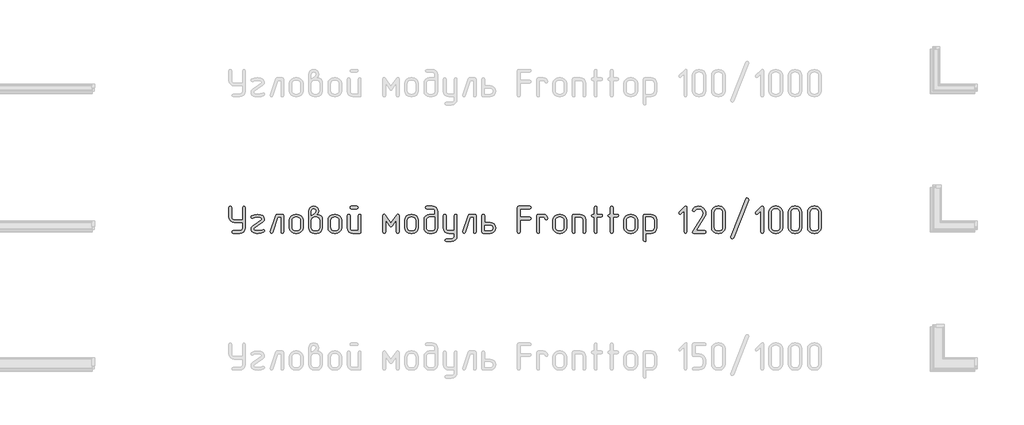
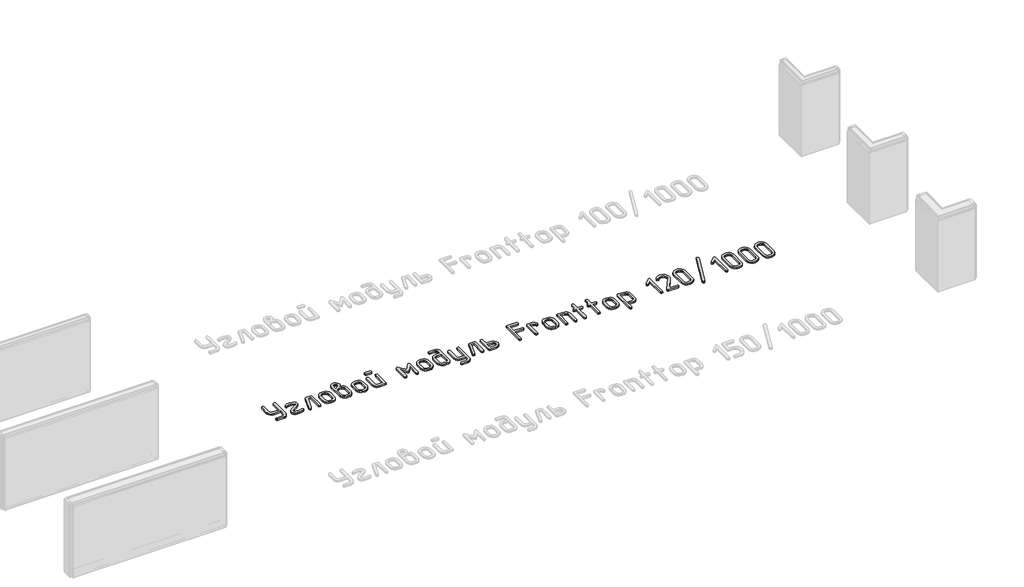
# One storey, part 33 of 37: 1 proxy.
"""IFC4 building model written with IfcOpenShell, lengths in millimetres."""

from ifc_helpers import new_model, si_unit, origin, origin_with_axes, place, context, project, spatial, polyline, outline, extrude, element, save

model = new_model("IFC4")

# Units and contexts
model_context = context("Model", 3, world=origin())
ifc_project = project(units=[si_unit("LENGTHUNIT", "METRE", prefix="MILLI")], contexts=[model_context])

# Site, building, storey
site = spatial("IfcSite", under=ifc_project)
building = spatial("IfcBuilding", under=site)
storey = spatial("IfcBuildingStorey", under=building, Name="Этаж 01", Elevation=0.0)

# Proxy
placement = place(None, origin())
element("IfcBuildingElementProxy", 1, Name="300 мм ГОСТ 2.304", ObjectType="300 мм ГОСТ 2.304", at=placement, inside=storey, context=model_context, shape_type="SweptSolid", body=[
    extrude(outline(polyline([(64282.5947081, -20608.7261154), (64192.9398643, -20608.7261154), (64169.869135, -20604.3522505), (64150.5152523, -20591.2306559), (64137.3936577, -20571.8767732), (64133.0197928, -20548.8060439), (64133.0197928, -20444.2838139), (64137.4124296, -20433.1332743), (64148.3377058, -20428.9659009), (64158.6247356, -20432.9080109), (64163.205092, -20444.2838139), (64163.205092, -20548.8060439), (64165.3357086, -20560.4540402), (64171.7275583, -20570.0183499), (64181.2918679, -20576.4101996), (64192.9398643, -20578.5408162), (64282.5947081, -20578.5408162), (64282.5947081, -20444.2838139), (64286.949801, -20433.1332743), (64297.4620942, -20428.9659009), (64307.9368436, -20432.9080109), (64312.3294804, -20444.2838139), (64312.3294804, -20668.19566), (64307.9556155, -20691.6042844), (64294.8340209, -20711.0707988), (64275.8180333, -20723.8544983), (64252.8599358, -20728.1157314), (64178.0724781, -20728.1157314), (64167.147202, -20723.7606385), (64163.205092, -20713.2483453), (64166.9219385, -20702.736052), (64178.0724781, -20698.3809591), (64252.8599358, -20698.3809591), (64264.2263528, -20696.1940267), (64273.8469783, -20689.6332294), (64280.4077756, -20679.8999722), (64282.5947081, -20668.19566), (64282.5947081, -20608.7261154)])), origin_with_axes(), (0.0, 0.0, 1.0), 20.0),
    extrude(outline(polyline([(64514.9914765, -20714.524838), (64485.4444237, -20725.0746752), (64451.6173658, -20728.5662583), (64430.8180428, -20727.4774851), (64413.0973199, -20724.5866044), (64396.8408093, -20719.4524755), (64384.8643037, -20709.3062353), (64377.4869265, -20695.6496401), (64375.0278008, -20679.984446), (64378.9699108, -20660.7619669), (64391.2467675, -20644.618088), (64486.5331969, -20578.991343), (64491.4139045, -20569.8306304), (64487.5844263, -20560.4071103), (64476.0959915, -20554.0621905), (64442.3815653, -20549.7070976), (64416.2510079, -20552.4290307), (64397.32888, -20560.5948299), (64388.1681673, -20564.1239569), (64377.693418, -20559.5436005), (64373.3007812, -20548.355517), (64379.4579815, -20537.0172579), (64408.0664367, -20524.777945), (64445.0096386, -20520.4228521), (64450.2657853, -20520.4228521), (64479.1370478, -20523.9144352), (64501.85111, -20533.7509382), (64516.7184961, -20549.0313073), (64521.9746427, -20568.9295767), (64517.7134096, -20586.6315276), (64504.9297101, -20602.193476), (64409.5681929, -20668.19566), (64404.3871341, -20679.6090069), (64408.1039806, -20689.8584928), (64417.9029396, -20695.7528858), (64434.3096259, -20697.5174493), (64451.9928049, -20698.3809591), (64478.4612575, -20696.2034127), (64501.0251441, -20687.8686659), (64508.4588371, -20686.1416463), (64519.1588499, -20690.7220026), (64523.3262233, -20701.9100861), (64521.2425366, -20709.1936036), (64514.9914765, -20714.524838)])), origin_with_axes(), (0.0, 0.0, 1.0), 20.0),
    extrude(outline(polyline([(64734.3229662, -20713.2483453), (64730.1555928, -20724.3988849), (64719.45558, -20728.1157314), (64708.9432868, -20724.1736215), (64704.5881939, -20713.2483453), (64704.5881939, -20548.8060439), (64670.0478018, -20548.8060439), (64614.0322964, -20718.0539651), (64608.5884303, -20725.4876581), (64600.5164908, -20728.1157314), (64589.7789341, -20724.1736215), (64585.1985778, -20713.6988721), (64586.0996315, -20708.4427255), (64645.1186493, -20529.133038), (64650.4498837, -20521.5867132), (64659.5355086, -20519.0712716), (64719.45558, -20519.0712716), (64730.6061197, -20522.7881181), (64734.3229662, -20533.9386577), (64734.3229662, -20713.2483453)])), origin_with_axes(), (0.0, 0.0, 1.0), 20.0),
    extrude(outline(polyline([(64945.7702359, -20662.4889865), (64940.9646162, -20687.9812976), (64926.5477569, -20709.3437792), (64905.5231704, -20723.4227434), (64880.143491, -20728.1157314), (64862.1975047, -20728.1157314), (64836.7615094, -20723.4227434), (64815.4177998, -20709.3437792), (64801.0009405, -20687.9812976), (64796.1953207, -20662.4889865), (64796.1953207, -20584.6980165), (64801.0009405, -20559.5436005), (64815.4177998, -20538.2937506), (64837.1744924, -20523.8768913), (64862.1975047, -20519.0712716), (64880.143491, -20519.0712716), (64905.288521, -20523.8862773), (64926.510213, -20538.3312945), (64940.9552302, -20559.5529865), (64945.7702359, -20584.6980165), (64945.7702359, -20662.4889865)]), holes=[polyline([(64916.0354636, -20662.4889865), (64916.0354636, -20584.6980165), (64913.4073903, -20570.9194036), (64905.5231704, -20559.3183371), (64893.9221039, -20551.4341172), (64880.143491, -20548.8060439), (64862.1975047, -20548.8060439), (64848.4282777, -20551.4341172), (64836.8553692, -20559.3183371), (64828.9993072, -20570.9194036), (64826.3806199, -20584.6980165), (64826.3806199, -20662.4889865), (64828.9993072, -20676.2675994), (64836.8553692, -20687.8686659), (64848.4282777, -20695.7528858), (64862.1975047, -20698.3809591), (64880.143491, -20698.3809591), (64893.9221039, -20695.7528858), (64905.5231704, -20687.8686659), (64913.4073903, -20676.2675994), (64916.0354636, -20662.4889865)])]), origin_with_axes(), (0.0, 0.0, 1.0), 20.0),
    extrude(outline(polyline([(65097.2974342, -20519.9723253), (65122.7897453, -20524.2335584), (65142.3501195, -20537.0172579), (65153.5006592, -20555.057104), (65157.2175057, -20578.5408162), (65157.2175057, -20668.19566), (65152.8436408, -20691.6042844), (65139.7220462, -20711.0707988), (65120.5934269, -20723.8544983), (65097.2974342, -20728.1157314), (65067.5626619, -20728.1157314), (65044.4919326, -20723.8544983), (65025.1380499, -20711.0707988), (65012.0164553, -20691.6042844), (65007.6425905, -20668.19566), (65007.6425905, -20483.2543867), (65011.9038236, -20460.3901489), (65024.6875231, -20442.5567943), (65041.4133325, -20432.3636243), (65061.8559884, -20428.9659009), (65081.9607493, -20432.3636243), (65098.573927, -20442.5567943), (65111.0760472, -20460.2775172), (65115.2434206, -20482.8038599), (65111.0760472, -20504.8421318), (65097.2974342, -20519.9723253)]), holes=[polyline([(65127.4827334, -20668.19566), (65127.4827334, -20578.5408162), (65125.295801, -20567.1743991), (65118.7350037, -20557.5537736), (65109.0017464, -20550.9929763), (65097.2974342, -20548.8060439), (65067.5626619, -20548.8060439), (65055.9146656, -20550.9929763), (65046.3503559, -20557.5537736), (65039.9585062, -20567.1743991), (65037.8278896, -20578.5408162), (65037.8278896, -20668.19566), (65039.9585062, -20679.8999722), (65046.3503559, -20689.6332294), (65055.9146656, -20696.1940267), (65067.5626619, -20698.3809591), (65097.2974342, -20698.3809591), (65109.0017464, -20696.1940267), (65118.7350037, -20689.6332294), (65125.295801, -20679.8999722), (65127.4827334, -20668.19566)]), polyline([(65037.8278896, -20529.133038), (65044.8110558, -20525.0032085), (65050.0672025, -20521.248818), (65060.1289688, -20514.0403884), (65067.5626619, -20508.5589783), (65079.8019748, -20497.671246), (65085.5086482, -20483.2543867), (65083.7065408, -20473.1644624), (65078.3002186, -20465.7213834), (65070.4723145, -20461.1316411), (65061.4054616, -20459.601727), (65052.4512404, -20461.1316411), (65044.8110558, -20465.7213834), (65039.5736812, -20473.1644624), (65037.8278896, -20483.2543867), (65037.8278896, -20529.133038)])]), origin_with_axes(), (0.0, 0.0, 1.0), 20.0),
    extrude(outline(polyline([(65368.6647755, -20662.4889865), (65363.8591557, -20687.9812976), (65349.4422964, -20709.3437792), (65328.4177099, -20723.4227434), (65303.0380305, -20728.1157314), (65285.0920442, -20728.1157314), (65259.6560489, -20723.4227434), (65238.3123393, -20709.3437792), (65223.89548, -20687.9812976), (65219.0898602, -20662.4889865), (65219.0898602, -20584.6980165), (65223.89548, -20559.5436005), (65238.3123393, -20538.2937506), (65260.0690319, -20523.8768913), (65285.0920442, -20519.0712716), (65303.0380305, -20519.0712716), (65328.1830605, -20523.8862773), (65349.4047525, -20538.3312945), (65363.8497697, -20559.5529865), (65368.6647755, -20584.6980165), (65368.6647755, -20662.4889865)]), holes=[polyline([(65338.9300032, -20662.4889865), (65338.9300032, -20584.6980165), (65336.3019298, -20570.9194036), (65328.4177099, -20559.3183371), (65316.8166434, -20551.4341172), (65303.0380305, -20548.8060439), (65285.0920442, -20548.8060439), (65271.3228172, -20551.4341172), (65259.7499087, -20559.3183371), (65251.8938467, -20570.9194036), (65249.2751594, -20584.6980165), (65249.2751594, -20662.4889865), (65251.8938467, -20676.2675994), (65259.7499087, -20687.8686659), (65271.3228172, -20695.7528858), (65285.0920442, -20698.3809591), (65303.0380305, -20698.3809591), (65316.8166434, -20695.7528858), (65328.4177099, -20687.8686659), (65336.3019298, -20676.2675994), (65338.9300032, -20662.4889865)])]), origin_with_axes(), (0.0, 0.0, 1.0), 20.0),
    extrude(outline(polyline([(65535.5098868, -20459.1512001), (65475.5898153, -20459.1512001), (65464.6645391, -20454.7961072), (65460.7224291, -20444.2838139), (65464.4392757, -20433.5838012), (65475.5898153, -20428.9659009), (65535.5098868, -20428.9659009), (65546.6604264, -20433.3585378), (65550.3772729, -20444.2838139), (65546.4351629, -20454.5708438), (65535.5098868, -20459.1512001)])), origin_with_axes(), (0.0, 0.0, 1.0), 20.0),
    extrude(outline(polyline([(65580.1120452, -20713.2483453), (65576.3951987, -20724.3988849), (65565.2446591, -20728.1157314), (65490.4572014, -20728.1157314), (65467.3864722, -20723.8544983), (65448.0325894, -20711.0707988), (65434.9109948, -20691.6042844), (65430.53713, -20668.19566), (65430.53713, -20533.9386577), (65434.9297668, -20523.0133815), (65445.855043, -20519.0712716), (65456.1420728, -20522.7881181), (65460.7224291, -20533.9386577), (65460.7224291, -20668.19566), (65462.8530457, -20679.8999722), (65469.2448954, -20689.6332294), (65478.8092051, -20696.1940267), (65490.4572014, -20698.3809591), (65550.3772729, -20698.3809591), (65550.3772729, -20533.9386577), (65554.7323658, -20523.0133815), (65565.2446591, -20519.0712716), (65575.7194084, -20522.7881181), (65580.1120452, -20533.9386577), (65580.1120452, -20713.2483453)])), origin_with_axes(), (0.0, 0.0, 1.0), 20.0),
    extrude(outline(polyline([(65999.1020187, -20713.2483453), (65994.7093818, -20724.1736215), (65984.2346325, -20728.1157314), (65973.4970758, -20724.3988849), (65969.3672464, -20713.2483453), (65969.3672464, -20580.2678358), (65921.6864877, -20647.2461613), (65915.5480594, -20653.1030104), (65909.4471749, -20655.0552934), (65903.121027, -20653.1030104), (65897.207862, -20647.2461613), (65849.9776303, -20580.2678358), (65849.9776303, -20713.2483453), (65845.3972739, -20724.1736215), (65835.1102441, -20728.1157314), (65823.9597045, -20724.3988849), (65819.7923311, -20713.2483453), (65819.7923311, -20533.9386577), (65823.5091776, -20521.0235546), (65832.9326977, -20516.4431983), (65840.666742, -20518.6395167), (65847.349557, -20525.2284719), (65909.4471749, -20612.6306814), (65971.9953197, -20525.2284719), (65978.7532225, -20518.6395167), (65985.9616521, -20516.4431983), (65995.3851721, -20521.0235546), (65999.1020187, -20533.9386577), (65999.1020187, -20713.2483453)])), origin_with_axes(), (0.0, 0.0, 1.0), 20.0),
    extrude(outline(polyline([(66209.6482347, -20662.4889865), (66204.8426149, -20687.9812976), (66190.4257556, -20709.3437792), (66169.4011692, -20723.4227434), (66144.0214898, -20728.1157314), (66126.0755035, -20728.1157314), (66100.6395082, -20723.4227434), (66079.2957985, -20709.3437792), (66064.8789392, -20687.9812976), (66060.0733195, -20662.4889865), (66060.0733195, -20584.6980165), (66064.8789392, -20559.5436005), (66079.2957985, -20538.2937506), (66101.0524911, -20523.8768913), (66126.0755035, -20519.0712716), (66144.0214898, -20519.0712716), (66169.1665198, -20523.8862773), (66190.3882117, -20538.3312945), (66204.833229, -20559.5529865), (66209.6482347, -20584.6980165), (66209.6482347, -20662.4889865)]), holes=[polyline([(66179.9134624, -20662.4889865), (66179.9134624, -20584.6980165), (66177.2853891, -20570.9194036), (66169.4011692, -20559.3183371), (66157.8001027, -20551.4341172), (66144.0214898, -20548.8060439), (66126.0755035, -20548.8060439), (66112.3062765, -20551.4341172), (66100.733368, -20559.3183371), (66092.877306, -20570.9194036), (66090.2586186, -20584.6980165), (66090.2586186, -20662.4889865), (66092.877306, -20676.2675994), (66100.733368, -20687.8686659), (66112.3062765, -20695.7528858), (66126.0755035, -20698.3809591), (66144.0214898, -20698.3809591), (66157.8001027, -20695.7528858), (66169.4011692, -20687.8686659), (66177.2853891, -20676.2675994), (66179.9134624, -20662.4889865)])]), origin_with_axes(), (0.0, 0.0, 1.0), 20.0),
    extrude(outline(polyline([(66391.3607322, -20519.0712716), (66391.3607322, -20488.8859724), (66389.1737997, -20477.2379761), (66382.6130024, -20467.6736664), (66372.8797452, -20461.2818167), (66361.175433, -20459.1512001), (66301.7058884, -20459.1512001), (66290.7806122, -20454.7961072), (66286.8385022, -20444.2838139), (66290.5553488, -20433.5838012), (66301.7058884, -20428.9659009), (66361.175433, -20428.9659009), (66384.4714257, -20433.3397658), (66403.600045, -20446.4613604), (66416.7216396, -20465.8152431), (66421.0955045, -20488.8859724), (66421.0955045, -20668.19566), (66416.7216396, -20691.6042844), (66403.600045, -20711.0707988), (66384.4714257, -20723.8544983), (66361.175433, -20728.1157314), (66331.4406607, -20728.1157314), (66308.3699314, -20723.8544983), (66289.0160487, -20711.0707988), (66275.8944541, -20691.6042844), (66271.5205892, -20668.19566), (66271.5205892, -20578.5408162), (66275.8944541, -20555.8079821), (66289.0160487, -20536.566731), (66308.3699314, -20523.4451364), (66331.4406607, -20519.0712716), (66391.3607322, -20519.0712716)]), holes=[polyline([(66391.3607322, -20548.8060439), (66331.4406607, -20548.8060439), (66319.7926643, -20550.9929763), (66310.2283547, -20557.5537736), (66303.836505, -20567.1743991), (66301.7058884, -20578.5408162), (66301.7058884, -20668.19566), (66303.836505, -20679.8999722), (66310.2283547, -20689.6332294), (66319.7926643, -20696.1940267), (66331.4406607, -20698.3809591), (66361.175433, -20698.3809591), (66372.8797452, -20696.1940267), (66382.6130024, -20689.6332294), (66389.1737997, -20679.8999722), (66391.3607322, -20668.19566), (66391.3607322, -20548.8060439)])]), origin_with_axes(), (0.0, 0.0, 1.0), 20.0),
    extrude(outline(polyline([(66602.8080019, -20728.1157314), (66542.8879304, -20728.1157314), (66519.8172012, -20723.8544983), (66500.4633184, -20711.0707988), (66487.3417238, -20691.6042844), (66482.967859, -20668.19566), (66482.967859, -20533.9386577), (66487.3604958, -20523.0133815), (66498.285772, -20519.0712716), (66508.5728018, -20522.7881181), (66513.1531581, -20533.9386577), (66513.1531581, -20668.19566), (66515.2837747, -20679.8999722), (66521.6756244, -20689.6332294), (66531.2399341, -20696.1940267), (66542.8879304, -20698.3809591), (66602.8080019, -20698.3809591), (66602.8080019, -20533.9386577), (66607.1630948, -20523.0133815), (66617.6753881, -20519.0712716), (66628.1501374, -20522.7881181), (66632.5427742, -20533.9386577), (66632.5427742, -20757.8505038), (66628.2815411, -20781.1464965), (66615.4978416, -20800.2751158), (66596.0313272, -20813.3967104), (66572.6227028, -20817.7705752), (66513.1531581, -20817.7705752), (66502.2278819, -20813.3779384), (66498.285772, -20802.9031891), (66502.0026185, -20792.3908958), (66513.1531581, -20788.0358029), (66572.6227028, -20788.0358029), (66584.327015, -20785.8488705), (66594.0602722, -20779.2880732), (66600.6210695, -20769.554816), (66602.8080019, -20757.8505038), (66602.8080019, -20728.1157314)])), origin_with_axes(), (0.0, 0.0, 1.0), 20.0),
    extrude(outline(polyline([(66843.990044, -20713.2483453), (66839.8226706, -20724.3988849), (66829.1226578, -20728.1157314), (66818.6103646, -20724.1736215), (66814.2552717, -20713.2483453), (66814.2552717, -20548.8060439), (66779.7148796, -20548.8060439), (66723.6993742, -20718.0539651), (66718.255508, -20725.4876581), (66710.1835686, -20728.1157314), (66699.4460119, -20724.1736215), (66694.8656556, -20713.6988721), (66695.7667093, -20708.4427255), (66754.7857271, -20529.133038), (66760.1169615, -20521.5867132), (66769.2025864, -20519.0712716), (66829.1226578, -20519.0712716), (66840.2731974, -20522.7881181), (66843.990044, -20533.9386577), (66843.990044, -20713.2483453)])), origin_with_axes(), (0.0, 0.0, 1.0), 20.0),
    extrude(outline(polyline([(66936.0476976, -20608.7261154), (66995.5172423, -20608.7261154), (67021.0095534, -20613.3252436), (67040.5699276, -20627.1226285), (67051.7204672, -20645.4628258), (67055.4373137, -20668.19566), (67051.8330989, -20690.9472661), (67041.0204544, -20709.3437792), (67021.1221851, -20723.4227434), (66995.5172423, -20728.1157314), (66921.1803115, -20728.1157314), (66909.6918767, -20724.3988849), (66905.8623985, -20713.2483453), (66905.8623985, -20533.9386577), (66910.2550353, -20523.0133815), (66921.1803115, -20519.0712716), (66931.4673413, -20522.7881181), (66936.0476976, -20533.9386577), (66936.0476976, -20608.7261154)]), holes=[polyline([(66936.0476976, -20638.4608877), (66936.0476976, -20698.3809591), (66995.5172423, -20698.3809591), (67008.3009417, -20696.1377108), (67017.8183215, -20689.407966), (67023.7314864, -20679.6183929), (67025.7025414, -20668.19566), (67023.8441182, -20657.1577521), (67018.2688483, -20647.6216003), (67008.6388369, -20640.7510658), (66995.5172423, -20638.4608877), (66936.0476976, -20638.4608877)])]), origin_with_axes(), (0.0, 0.0, 1.0), 20.0),
    extrude(outline(polyline([(67325.3028988, -20548.355517), (67429.8251287, -20548.355517), (67440.9756683, -20552.5228904), (67444.6925149, -20563.2229032), (67440.7504049, -20573.9604598), (67429.8251287, -20578.5408162), (67325.3028988, -20578.5408162), (67325.3028988, -20713.2483453), (67321.1355254, -20724.3988849), (67310.4355126, -20728.1157314), (67299.697956, -20724.1736215), (67295.1175996, -20713.2483453), (67295.1175996, -20444.2838139), (67298.9470779, -20432.7953792), (67310.4355126, -20428.9659009), (67429.8251287, -20428.9659009), (67440.9756683, -20433.3585378), (67444.6925149, -20444.2838139), (67440.7504049, -20454.5708438), (67429.8251287, -20459.1512001), (67325.3028988, -20459.1512001), (67325.3028988, -20548.355517)])), origin_with_axes(), (0.0, 0.0, 1.0), 20.0),
    extrude(outline(polyline([(67626.4050123, -20563.67343), (67622.2376389, -20574.8239697), (67611.5376262, -20578.5408162), (67600.8000695, -20574.5987062), (67596.2197132, -20563.67343), (67592.0523398, -20553.1986807), (67581.352327, -20548.8060439), (67536.7501685, -20548.8060439), (67536.7501685, -20713.2483453), (67532.5827951, -20724.3988849), (67521.8827824, -20728.1157314), (67511.1452257, -20724.1736215), (67506.5648694, -20713.2483453), (67506.5648694, -20533.9386577), (67510.3943476, -20522.7881181), (67521.8827824, -20519.0712716), (67581.352327, -20519.0712716), (67598.8477865, -20522.5628547), (67613.3021897, -20532.1740942), (67622.9134292, -20546.403234), (67626.4050123, -20563.67343)])), origin_with_axes(), (0.0, 0.0, 1.0), 20.0),
    extrude(outline(polyline([(67833.947716, -20662.4889865), (67829.1420963, -20687.9812976), (67814.7252369, -20709.3437792), (67793.7006505, -20723.4227434), (67768.3209711, -20728.1157314), (67750.3749848, -20728.1157314), (67724.9389895, -20723.4227434), (67703.5952798, -20709.3437792), (67689.1784205, -20687.9812976), (67684.3728008, -20662.4889865), (67684.3728008, -20584.6980165), (67689.1784205, -20559.5436005), (67703.5952798, -20538.2937506), (67725.3519725, -20523.8768913), (67750.3749848, -20519.0712716), (67768.3209711, -20519.0712716), (67793.4660011, -20523.8862773), (67814.687693, -20538.3312945), (67829.1327103, -20559.5529865), (67833.947716, -20584.6980165), (67833.947716, -20662.4889865)]), holes=[polyline([(67804.2129437, -20662.4889865), (67804.2129437, -20584.6980165), (67801.5848704, -20570.9194036), (67793.7006505, -20559.3183371), (67782.099584, -20551.4341172), (67768.3209711, -20548.8060439), (67750.3749848, -20548.8060439), (67736.6057578, -20551.4341172), (67725.0328493, -20559.3183371), (67717.1767873, -20570.9194036), (67714.5580999, -20584.6980165), (67714.5580999, -20662.4889865), (67717.1767873, -20676.2675994), (67725.0328493, -20687.8686659), (67736.6057578, -20695.7528858), (67750.3749848, -20698.3809591), (67768.3209711, -20698.3809591), (67782.099584, -20695.7528858), (67793.7006505, -20687.8686659), (67801.5848704, -20676.2675994), (67804.2129437, -20662.4889865)])]), origin_with_axes(), (0.0, 0.0, 1.0), 20.0),
    extrude(outline(polyline([(68045.3949858, -20713.2483453), (68041.2276124, -20724.3988849), (68030.5275996, -20728.1157314), (68020.0153064, -20724.1736215), (68015.6602135, -20713.2483453), (68015.6602135, -20578.5408162), (68013.473281, -20567.1743991), (68006.9124837, -20557.5537736), (67997.1792265, -20550.9929763), (67985.4749143, -20548.8060439), (67926.0053697, -20548.8060439), (67926.0053697, -20713.2483453), (67921.8379963, -20724.3988849), (67911.1379835, -20728.1157314), (67900.4004269, -20724.1736215), (67895.8200705, -20713.2483453), (67895.8200705, -20533.9386577), (67899.6495488, -20522.7881181), (67911.1379835, -20519.0712716), (67985.4749143, -20519.0712716), (68008.770907, -20523.3325047), (68027.8995263, -20536.1162042), (68041.0211209, -20555.4700869), (68045.3949858, -20578.5408162), (68045.3949858, -20713.2483453)])), origin_with_axes(), (0.0, 0.0, 1.0), 20.0),
    extrude(outline(polyline([(68167.1874117, -20519.0712716), (68212.2400971, -20519.0712716), (68223.3906367, -20523.238645), (68227.1074832, -20533.9386577), (68223.1653733, -20544.2256875), (68212.2400971, -20548.8060439), (68167.1874117, -20548.8060439), (68167.1874117, -20713.2483453), (68163.0200384, -20724.3988849), (68152.3200256, -20728.1157314), (68141.8077324, -20724.1736215), (68137.4526394, -20713.2483453), (68137.4526394, -20548.8060439), (68122.5852533, -20548.8060439), (68111.4347137, -20544.450951), (68107.2673403, -20533.9386577), (68111.2094502, -20523.4639084), (68122.5852533, -20519.0712716), (68137.4526394, -20519.0712716), (68137.4526394, -20444.2838139), (68141.8077324, -20433.1332743), (68152.3200256, -20428.9659009), (68162.7947749, -20432.9080109), (68167.1874117, -20444.2838139), (68167.1874117, -20519.0712716)])), origin_with_axes(), (0.0, 0.0, 1.0), 20.0),
    extrude(outline(polyline([(68344.9953431, -20519.0712716), (68390.0480284, -20519.0712716), (68401.1985681, -20523.238645), (68404.9154146, -20533.9386577), (68400.9733046, -20544.2256875), (68390.0480284, -20548.8060439), (68344.9953431, -20548.8060439), (68344.9953431, -20713.2483453), (68340.8279697, -20724.3988849), (68330.127957, -20728.1157314), (68319.6156637, -20724.1736215), (68315.2605708, -20713.2483453), (68315.2605708, -20548.8060439), (68300.3931847, -20548.8060439), (68289.2426451, -20544.450951), (68285.0752717, -20533.9386577), (68289.0173816, -20523.4639084), (68300.3931847, -20519.0712716), (68315.2605708, -20519.0712716), (68315.2605708, -20444.2838139), (68319.6156637, -20433.1332743), (68330.127957, -20428.9659009), (68340.6027063, -20432.9080109), (68344.9953431, -20444.2838139), (68344.9953431, -20519.0712716)])), origin_with_axes(), (0.0, 0.0, 1.0), 20.0),
    extrude(outline(polyline([(68612.4581183, -20662.4889865), (68607.6524985, -20687.9812976), (68593.2356392, -20709.3437792), (68572.2110527, -20723.4227434), (68546.8313734, -20728.1157314), (68528.885387, -20728.1157314), (68503.4493918, -20723.4227434), (68482.1056821, -20709.3437792), (68467.6888228, -20687.9812976), (68462.883203, -20662.4889865), (68462.883203, -20584.6980165), (68467.6888228, -20559.5436005), (68482.1056821, -20538.2937506), (68503.8623747, -20523.8768913), (68528.885387, -20519.0712716), (68546.8313734, -20519.0712716), (68571.9764033, -20523.8862773), (68593.1980953, -20538.3312945), (68607.6431126, -20559.5529865), (68612.4581183, -20584.6980165), (68612.4581183, -20662.4889865)]), holes=[polyline([(68582.723346, -20662.4889865), (68582.723346, -20584.6980165), (68580.0952727, -20570.9194036), (68572.2110527, -20559.3183371), (68560.6099863, -20551.4341172), (68546.8313734, -20548.8060439), (68528.885387, -20548.8060439), (68515.1161601, -20551.4341172), (68503.5432515, -20559.3183371), (68495.6871895, -20570.9194036), (68493.0685022, -20584.6980165), (68493.0685022, -20662.4889865), (68495.6871895, -20676.2675994), (68503.5432515, -20687.8686659), (68515.1161601, -20695.7528858), (68528.885387, -20698.3809591), (68546.8313734, -20698.3809591), (68560.6099863, -20695.7528858), (68572.2110527, -20687.8686659), (68580.0952727, -20676.2675994), (68582.723346, -20662.4889865)])]), origin_with_axes(), (0.0, 0.0, 1.0), 20.0),
    extrude(outline(polyline([(68704.515772, -20728.1157314), (68704.515772, -20802.9031891), (68700.3483986, -20814.0537287), (68689.6483858, -20817.7705752), (68678.9108291, -20813.8284653), (68674.3304728, -20802.9031891), (68674.3304728, -20533.9386577), (68678.1599511, -20522.7881181), (68689.6483858, -20519.0712716), (68763.9853166, -20519.0712716), (68787.2813093, -20523.3325047), (68806.4099286, -20536.1162042), (68819.5315232, -20555.4700869), (68823.9053881, -20578.5408162), (68823.9053881, -20668.19566), (68819.5315232, -20691.6042844), (68806.4099286, -20711.0707988), (68787.2813093, -20723.8544983), (68763.9853166, -20728.1157314), (68704.515772, -20728.1157314)]), holes=[polyline([(68704.515772, -20698.3809591), (68763.9853166, -20698.3809591), (68775.6896288, -20696.1940267), (68785.422886, -20689.6332294), (68791.9836833, -20679.8999722), (68794.1706157, -20668.19566), (68794.1706157, -20578.5408162), (68791.9836833, -20567.1743991), (68785.422886, -20557.5537736), (68775.6896288, -20550.9929763), (68763.9853166, -20548.8060439), (68704.515772, -20548.8060439), (68704.515772, -20698.3809591)])]), origin_with_axes(), (0.0, 0.0, 1.0), 20.0),
    extrude(outline(polyline([(69153.2405177, -20713.2483453), (69149.0731443, -20724.3988849), (69138.3731316, -20728.1157314), (69128.0861018, -20724.1736215), (69123.5057454, -20713.2483453), (69123.5057454, -20480.1757866), (69088.9653533, -20514.2656518), (69078.9035869, -20519.0712716), (69068.1660303, -20514.4909152), (69063.5856739, -20503.7533586), (69068.3912937, -20493.3161531), (69127.8608383, -20433.7715207), (69141.0012049, -20427.2388813), (69149.7489346, -20431.6315182), (69153.2405177, -20444.2838139), (69153.2405177, -20713.2483453)])), origin_with_axes(), (0.0, 0.0, 1.0), 20.0),
    extrude(outline(polyline([(69351.1719819, -20544.450951), (69254.5339719, -20698.3809591), (69347.2674158, -20698.3809591), (69358.4179554, -20702.5483325), (69362.134802, -20713.2483453), (69358.192692, -20723.5353751), (69347.2674158, -20728.1157314), (69227.8777997, -20728.1157314), (69215.7135747, -20725.1685349), (69211.658833, -20716.3269455), (69215.18796, -20704.9135985), (69325.4168634, -20529.133038), (69331.0484491, -20506.8319587), (69327.3316026, -20488.3603577), (69316.181063, -20473.1926204), (69299.3426218, -20462.6615552), (69279.4631244, -20459.1512001), (69267.7681982, -20460.6811142), (69257.1620452, -20465.2708565), (69240.1171126, -20481.9028062), (69235.1050013, -20487.1401809), (69227.8777997, -20488.8859724), (69217.3655065, -20484.7561429), (69212.5598867, -20474.4691131), (69215.18796, -20466.1343663), (69227.2207814, -20451.1168046), (69242.294659, -20439.2529308), (69259.3395916, -20431.5376584), (69277.285578, -20428.9659009), (69309.3105284, -20434.8790659), (69336.3045957, -20452.6185607), (69354.663565, -20477.9982401), (69359.2533073, -20492.3212397), (69360.7832214, -20507.7330124), (69358.3804115, -20526.5237366), (69351.1719819, -20544.450951)])), origin_with_axes(), (0.0, 0.0, 1.0), 20.0),
    extrude(outline(polyline([(69573.5820717, -20662.4889865), (69568.776452, -20687.9812976), (69554.3595927, -20709.3437792), (69533.3350062, -20723.4227434), (69507.9553268, -20728.1157314), (69490.0093405, -20728.1157314), (69464.5733452, -20723.4227434), (69443.2296355, -20709.3437792), (69428.8127762, -20687.9812976), (69424.0071565, -20662.4889865), (69424.0071565, -20495.0431727), (69428.8127762, -20469.8887568), (69443.2296355, -20448.6389069), (69464.7610647, -20433.8841524), (69490.0093405, -20428.9659009), (69507.9553268, -20428.9659009), (69533.1003568, -20433.7809067), (69554.3220488, -20448.2259239), (69568.767066, -20469.5602476), (69573.5820717, -20495.0431727), (69573.5820717, -20662.4889865)]), holes=[polyline([(69543.8472994, -20662.4889865), (69543.8472994, -20495.0431727), (69541.2192261, -20481.2645598), (69533.3350062, -20469.6634933), (69521.7339397, -20461.7792734), (69507.9553268, -20459.1512001), (69490.0093405, -20459.1512001), (69476.2401135, -20461.7792734), (69464.667205, -20469.6634933), (69456.811143, -20481.2645598), (69454.1924556, -20495.0431727), (69454.1924556, -20662.4889865), (69456.811143, -20676.2675994), (69464.667205, -20687.8686659), (69476.2401135, -20695.7528858), (69490.0093405, -20698.3809591), (69507.9553268, -20698.3809591), (69521.7339397, -20695.7528858), (69533.3350062, -20687.8686659), (69541.2192261, -20676.2675994), (69543.8472994, -20662.4889865)])]), origin_with_axes(), (0.0, 0.0, 1.0), 20.0),
    extrude(outline(polyline([(69829.1809731, -20359.8851168), (69664.7386717, -20778.4245634), (69659.0695421, -20785.4077296), (69651.2228661, -20788.0358029), (69640.260046, -20783.8684295), (69635.4544262, -20773.1684168), (69636.3554799, -20767.4617433), (69800.7977813, -20348.9973845), (69806.4669109, -20341.9391305), (69814.3135869, -20339.3110572), (69825.276407, -20343.703694), (69830.0820268, -20354.1784433), (69829.1809731, -20359.8851168)])), origin_with_axes(), (0.0, 0.0, 1.0), 20.0),
    extrude(outline(polyline([(69994.223977, -20713.2483453), (69990.0566036, -20724.3988849), (69979.3565908, -20728.1157314), (69969.069561, -20724.1736215), (69964.4892047, -20713.2483453), (69964.4892047, -20480.1757866), (69929.9488126, -20514.2656518), (69919.8870462, -20519.0712716), (69909.1494895, -20514.4909152), (69904.5691332, -20503.7533586), (69909.374753, -20493.3161531), (69968.8442976, -20433.7715207), (69981.9846641, -20427.2388813), (69990.7323939, -20431.6315182), (69994.223977, -20444.2838139), (69994.223977, -20713.2483453)])), origin_with_axes(), (0.0, 0.0, 1.0), 20.0),
    extrude(outline(polyline([(70203.1182612, -20662.4889865), (70198.3126415, -20687.9812976), (70183.8957822, -20709.3437792), (70162.8711957, -20723.4227434), (70137.4915163, -20728.1157314), (70119.54553, -20728.1157314), (70094.1095347, -20723.4227434), (70072.765825, -20709.3437792), (70058.3489657, -20687.9812976), (70053.543346, -20662.4889865), (70053.543346, -20495.0431727), (70058.3489657, -20469.8887568), (70072.765825, -20448.6389069), (70094.2972542, -20433.8841524), (70119.54553, -20428.9659009), (70137.4915163, -20428.9659009), (70162.6365463, -20433.7809067), (70183.8582383, -20448.2259239), (70198.3032555, -20469.5602476), (70203.1182612, -20495.0431727), (70203.1182612, -20662.4889865)]), holes=[polyline([(70173.3834889, -20662.4889865), (70173.3834889, -20495.0431727), (70170.7554156, -20481.2645598), (70162.8711957, -20469.6634933), (70151.2701292, -20461.7792734), (70137.4915163, -20459.1512001), (70119.54553, -20459.1512001), (70105.776303, -20461.7792734), (70094.2033945, -20469.6634933), (70086.3473325, -20481.2645598), (70083.7286451, -20495.0431727), (70083.7286451, -20662.4889865), (70086.3473325, -20676.2675994), (70094.2033945, -20687.8686659), (70105.776303, -20695.7528858), (70119.54553, -20698.3809591), (70137.4915163, -20698.3809591), (70151.2701292, -20695.7528858), (70162.8711957, -20687.8686659), (70170.7554156, -20676.2675994), (70173.3834889, -20662.4889865)])]), origin_with_axes(), (0.0, 0.0, 1.0), 20.0),
    extrude(outline(polyline([(70414.565531, -20662.4889865), (70409.7599112, -20687.9812976), (70395.3430519, -20709.3437792), (70374.3184654, -20723.4227434), (70348.938786, -20728.1157314), (70330.9927997, -20728.1157314), (70305.5568045, -20723.4227434), (70284.2130948, -20709.3437792), (70269.7962355, -20687.9812976), (70264.9906157, -20662.4889865), (70264.9906157, -20495.0431727), (70269.7962355, -20469.8887568), (70284.2130948, -20448.6389069), (70305.744524, -20433.8841524), (70330.9927997, -20428.9659009), (70348.938786, -20428.9659009), (70374.083816, -20433.7809067), (70395.305508, -20448.2259239), (70409.7505252, -20469.5602476), (70414.565531, -20495.0431727), (70414.565531, -20662.4889865)]), holes=[polyline([(70384.8307587, -20662.4889865), (70384.8307587, -20495.0431727), (70382.2026854, -20481.2645598), (70374.3184654, -20469.6634933), (70362.717399, -20461.7792734), (70348.938786, -20459.1512001), (70330.9927997, -20459.1512001), (70317.2235728, -20461.7792734), (70305.6506642, -20469.6634933), (70297.7946022, -20481.2645598), (70295.1759149, -20495.0431727), (70295.1759149, -20662.4889865), (70297.7946022, -20676.2675994), (70305.6506642, -20687.8686659), (70317.2235728, -20695.7528858), (70330.9927997, -20698.3809591), (70348.938786, -20698.3809591), (70362.717399, -20695.7528858), (70374.3184654, -20687.8686659), (70382.2026854, -20676.2675994), (70384.8307587, -20662.4889865)])]), origin_with_axes(), (0.0, 0.0, 1.0), 20.0),
    extrude(outline(polyline([(70626.0128007, -20662.4889865), (70621.207181, -20687.9812976), (70606.7903217, -20709.3437792), (70585.7657352, -20723.4227434), (70560.3860558, -20728.1157314), (70542.4400695, -20728.1157314), (70517.0040742, -20723.4227434), (70495.6603646, -20709.3437792), (70481.2435053, -20687.9812976), (70476.4378855, -20662.4889865), (70476.4378855, -20495.0431727), (70481.2435053, -20469.8887568), (70495.6603646, -20448.6389069), (70517.1917937, -20433.8841524), (70542.4400695, -20428.9659009), (70560.3860558, -20428.9659009), (70585.5310858, -20433.7809067), (70606.7527778, -20448.2259239), (70621.197795, -20469.5602476), (70626.0128007, -20495.0431727), (70626.0128007, -20662.4889865)]), holes=[polyline([(70596.2780284, -20662.4889865), (70596.2780284, -20495.0431727), (70593.6499551, -20481.2645598), (70585.7657352, -20469.6634933), (70574.1646687, -20461.7792734), (70560.3860558, -20459.1512001), (70542.4400695, -20459.1512001), (70528.6708425, -20461.7792734), (70517.097934, -20469.6634933), (70509.241872, -20481.2645598), (70506.6231847, -20495.0431727), (70506.6231847, -20662.4889865), (70509.241872, -20676.2675994), (70517.097934, -20687.8686659), (70528.6708425, -20695.7528858), (70542.4400695, -20698.3809591), (70560.3860558, -20698.3809591), (70574.1646687, -20695.7528858), (70585.7657352, -20687.8686659), (70593.6499551, -20676.2675994), (70596.2780284, -20662.4889865)])]), origin_with_axes(), (0.0, 0.0, 1.0), 20.0),
])

save(model, "model.ifc")
